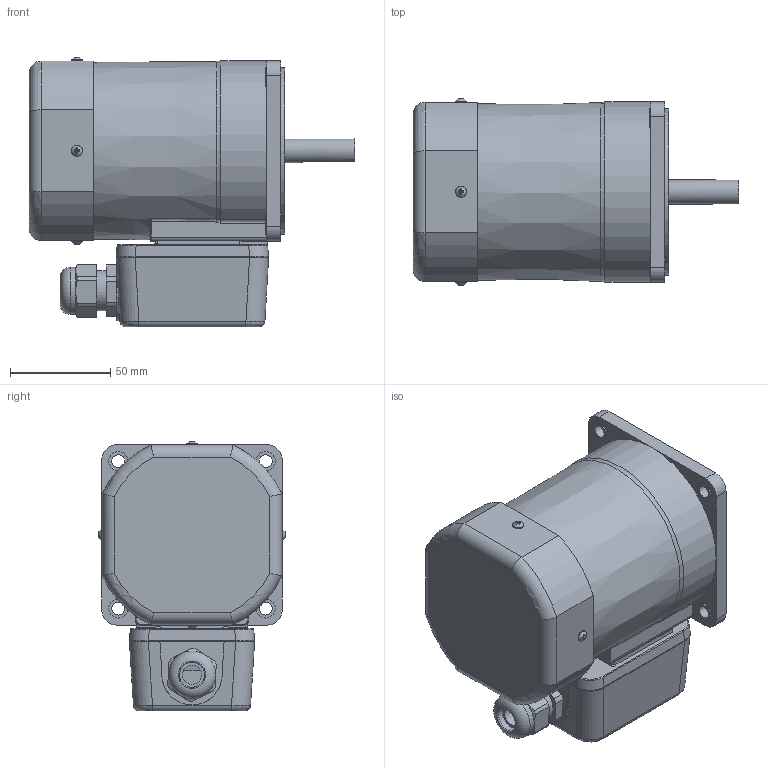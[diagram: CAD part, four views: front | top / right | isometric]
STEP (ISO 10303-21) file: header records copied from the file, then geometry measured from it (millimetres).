
FILE_DESCRIPTION((''),'2;1');
FILE_NAME('D:\STP파일\60W MOTOR\T BOX TYPE\S9I60K-T.stp','2013-05-20T18:14:51',('leebh'),(''),'Autodesk Inventor 2011','Autodesk Inventor 2011','');
FILE_SCHEMA(('AUTOMOTIVE_DESIGN { 1 0 10303 214 1 1 1 1 }'));
Length unit declared in the file: millimetre
Products named in the file (1): 부품1
Bounding box: 162.41 x 93.49 x 134.55 mm (x, y, z)
Volume: 1018992.4 mm3; surface area: 80052.8 mm2
Topology: 1 solids, 13 shells, 479 faces, 1177 edges, 749 vertices
Faces by surface type: plane 257, cylinder 128, bspline 53, torus 33, cone 8
Full cylindrical faces by diameter (mm): 2.55 x2, 3 x4, 3.5 x4, 5.6 x8, 6.3 x4, 6.5 x4, 9.5 x4, 12 x1, 12.5 x1, 15 x1, 20 x2, 21 x1, 23.6 x1, 40 x1, 83 x1
Entity records: 16044 total; most frequent: CARTESIAN_POINT 4998, ORIENTED_EDGE 2166, DIRECTION 2080, EDGE_CURVE 1083, AXIS2_PLACEMENT_3D 749, VERTEX_POINT 731, EDGE_LOOP 596, VECTOR 582
